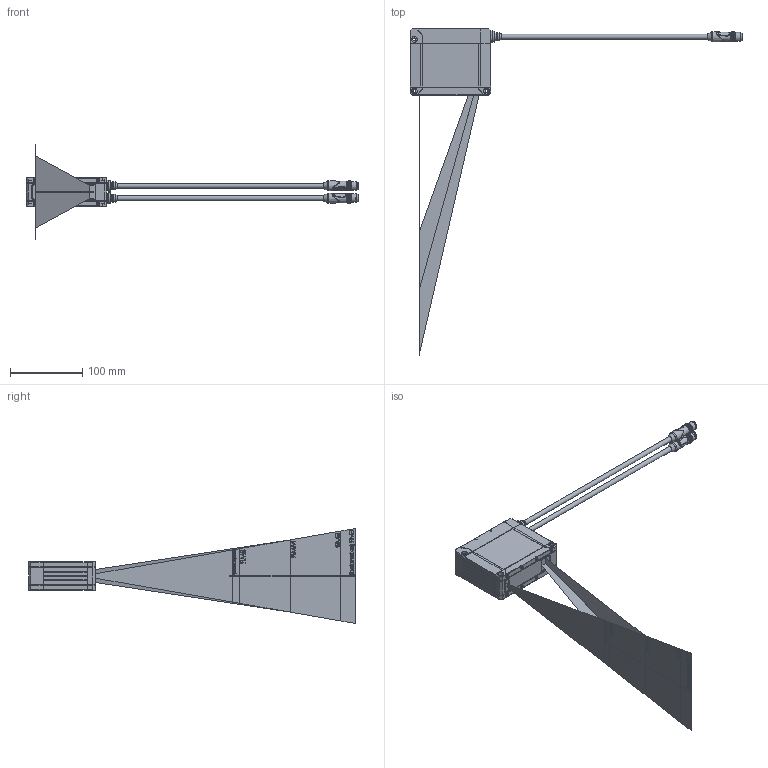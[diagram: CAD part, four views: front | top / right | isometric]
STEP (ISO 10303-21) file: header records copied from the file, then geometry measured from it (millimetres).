
FILE_DESCRIPTION (( 'STEP AP214' ), '1' );
FILE_NAME ('LLT30xx-100-RT.STEP', '2026-07-22T08:24:23', ( '' ), ( '' ), 'SwSTEP 2.0', 'SolidWorks 2024', '' );
FILE_SCHEMA (( 'AUTOMOTIVE_DESIGN' ));
Length unit declared in the file: millimetre
Products named in the file (1): LLT30xx-100-RT
Bounding box: 459.4 x 452 x 131.3 mm (x, y, z)
Volume: 430712.4 mm3; surface area: 163574.7 mm2
Topology: 3 solids, 18 shells, 4259 faces, 9730 edges, 5650 vertices
Faces by surface type: plane 2341, cone 940, cylinder 506, bspline 441, torus 28, sphere 3
Full cylindrical faces by diameter (mm): 0.6 x8, 0.7 x12, 2.4 x3, 2.8 x3, 3 x3, 3.8 x16, 4.2 x3, 4.4 x16, 6.8 x4, 8 x4, 8.35 x2, 8.4 x4, 9.2 x2, 9.4 x2, 9.5 x2, 10.268 x2, 10.5 x2, 10.7 x2, 10.75 x2, 10.8 x2, 11.2 x2, 12 x2, 13 x2, 13.5 x2, 15 x2
Entity records: 178993 total; most frequent: CARTESIAN_POINT 50588, ORIENTED_EDGE 18876, DIRECTION 15832, EDGE_CURVE 9438, AXIS2_PLACEMENT_3D 5768, VERTEX_POINT 5582, EDGE_LOOP 4654, FACE_OUTER_BOUND 4397
